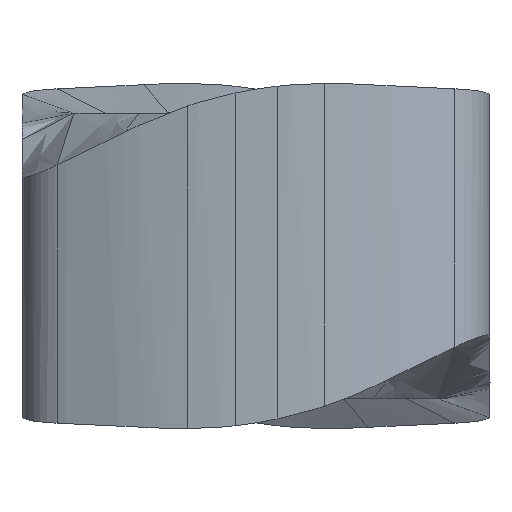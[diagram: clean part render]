
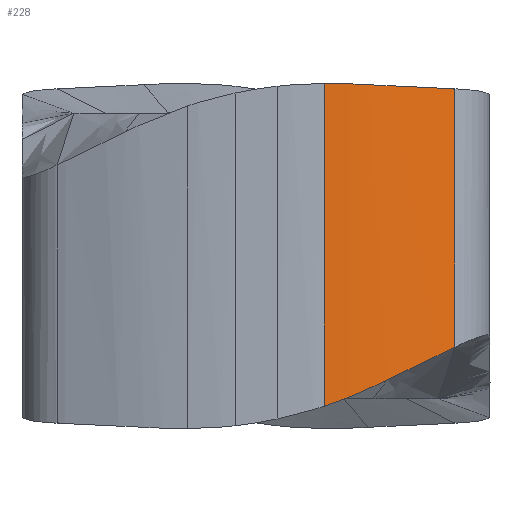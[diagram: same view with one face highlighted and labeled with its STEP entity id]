
A CAD part, left-side view. The second image highlights one B-rep face of the part: STEP entity #228.
In plain terms, the highlighted cylindrical face has radius 6.5 mm (diameter 13 mm), a partial arc.
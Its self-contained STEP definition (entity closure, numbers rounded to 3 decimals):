
#161=CYLINDRICAL_SURFACE('',#1599,6.5);
#180=LINE('',#2883,#196);
#181=LINE('',#2893,#197);
#196=VECTOR('',#1673,1.);
#197=VECTOR('',#1676,1.);
#228=ADVANCED_FACE('',(#326),#161,.T.);
#326=FACE_OUTER_BOUND('',#378,.T.);
#378=EDGE_LOOP('',(#608,#609,#610,#611,#612,#613,#614,#615,#616,#617,#618,
#619,#620,#621,#622,#623));
#608=ORIENTED_EDGE('',*,*,#1251,.F.);
#609=ORIENTED_EDGE('',*,*,#1252,.T.);
#610=ORIENTED_EDGE('',*,*,#1253,.F.);
#611=ORIENTED_EDGE('',*,*,#1254,.F.);
#612=ORIENTED_EDGE('',*,*,#1255,.F.);
#613=ORIENTED_EDGE('',*,*,#1256,.F.);
#614=ORIENTED_EDGE('',*,*,#1257,.F.);
#615=ORIENTED_EDGE('',*,*,#1258,.F.);
#616=ORIENTED_EDGE('',*,*,#1259,.F.);
#617=ORIENTED_EDGE('',*,*,#1260,.F.);
#618=ORIENTED_EDGE('',*,*,#1250,.T.);
#619=ORIENTED_EDGE('',*,*,#1261,.F.);
#620=ORIENTED_EDGE('',*,*,#1262,.F.);
#621=ORIENTED_EDGE('',*,*,#1263,.F.);
#622=ORIENTED_EDGE('',*,*,#1264,.F.);
#623=ORIENTED_EDGE('',*,*,#1265,.F.);
#967=VERTEX_POINT('',#2245);
#1043=VERTEX_POINT('',#2882);
#1044=VERTEX_POINT('',#2891);
#1045=VERTEX_POINT('',#2892);
#1046=VERTEX_POINT('',#2894);
#1047=VERTEX_POINT('',#2901);
#1048=VERTEX_POINT('',#2906);
#1049=VERTEX_POINT('',#2912);
#1050=VERTEX_POINT('',#2917);
#1051=VERTEX_POINT('',#2924);
#1052=VERTEX_POINT('',#2931);
#1053=VERTEX_POINT('',#2937);
#1054=VERTEX_POINT('',#2946);
#1055=VERTEX_POINT('',#2952);
#1056=VERTEX_POINT('',#2957);
#1057=VERTEX_POINT('',#2962);
#1250=EDGE_CURVE('',#967,#1043,#180,.T.);
#1251=EDGE_CURVE('',#1044,#1045,#1482,.T.);
#1252=EDGE_CURVE('',#1044,#1046,#181,.T.);
#1253=EDGE_CURVE('',#1047,#1046,#1483,.T.);
#1254=EDGE_CURVE('',#1048,#1047,#1484,.T.);
#1255=EDGE_CURVE('',#1049,#1048,#1485,.T.);
#1256=EDGE_CURVE('',#1050,#1049,#1486,.T.);
#1257=EDGE_CURVE('',#1051,#1050,#1487,.T.);
#1258=EDGE_CURVE('',#1052,#1051,#1488,.T.);
#1259=EDGE_CURVE('',#1053,#1052,#1489,.T.);
#1260=EDGE_CURVE('',#967,#1053,#1490,.T.);
#1261=EDGE_CURVE('',#1054,#1043,#1491,.T.);
#1262=EDGE_CURVE('',#1055,#1054,#1492,.T.);
#1263=EDGE_CURVE('',#1056,#1055,#1493,.T.);
#1264=EDGE_CURVE('',#1057,#1056,#1494,.T.);
#1265=EDGE_CURVE('',#1045,#1057,#1495,.T.);
#1482=B_SPLINE_CURVE_WITH_KNOTS('',3,(#2885,#2886,#2887,#2888,#2889,#2890),
 .UNSPECIFIED.,.F.,.F.,(4,1,1,4),(0.,0.064,0.605,
1.),.UNSPECIFIED.);
#1483=B_SPLINE_CURVE_WITH_KNOTS('',3,(#2895,#2896,#2897,#2898,#2899,#2900),
 .UNSPECIFIED.,.F.,.F.,(4,1,1,4),(0.,0.374,0.985,
1.),.UNSPECIFIED.);
#1484=B_SPLINE_CURVE_WITH_KNOTS('',3,(#2902,#2903,#2904,#2905),
 .UNSPECIFIED.,.F.,.F.,(4,4),(0.,1.),.UNSPECIFIED.);
#1485=B_SPLINE_CURVE_WITH_KNOTS('',3,(#2907,#2908,#2909,#2910,#2911),
 .UNSPECIFIED.,.F.,.F.,(4,1,4),(0.,0.947,1.),.UNSPECIFIED.);
#1486=B_SPLINE_CURVE_WITH_KNOTS('',3,(#2913,#2914,#2915,#2916),
 .UNSPECIFIED.,.F.,.F.,(4,4),(0.,1.),.UNSPECIFIED.);
#1487=B_SPLINE_CURVE_WITH_KNOTS('',3,(#2918,#2919,#2920,#2921,#2922,#2923),
 .UNSPECIFIED.,.F.,.F.,(4,1,1,4),(0.,0.079,0.539,
1.),.UNSPECIFIED.);
#1488=B_SPLINE_CURVE_WITH_KNOTS('',3,(#2925,#2926,#2927,#2928,#2929,#2930),
 .UNSPECIFIED.,.F.,.F.,(4,1,1,4),(0.,0.499,0.773,
1.),.UNSPECIFIED.);
#1489=B_SPLINE_CURVE_WITH_KNOTS('',3,(#2932,#2933,#2934,#2935,#2936),
 .UNSPECIFIED.,.F.,.F.,(4,1,4),(0.,0.356,1.),.UNSPECIFIED.);
#1490=B_SPLINE_CURVE_WITH_KNOTS('',3,(#2938,#2939,#2940,#2941),
 .UNSPECIFIED.,.F.,.F.,(4,4),(0.,1.),.UNSPECIFIED.);
#1491=B_SPLINE_CURVE_WITH_KNOTS('',3,(#2942,#2943,#2944,#2945),
 .UNSPECIFIED.,.F.,.F.,(4,4),(0.,1.),.UNSPECIFIED.);
#1492=B_SPLINE_CURVE_WITH_KNOTS('',3,(#2947,#2948,#2949,#2950,#2951),
 .UNSPECIFIED.,.F.,.F.,(4,1,4),(0.,0.312,1.),.UNSPECIFIED.);
#1493=B_SPLINE_CURVE_WITH_KNOTS('',3,(#2953,#2954,#2955,#2956),
 .UNSPECIFIED.,.F.,.F.,(4,4),(0.,1.),.UNSPECIFIED.);
#1494=B_SPLINE_CURVE_WITH_KNOTS('',3,(#2958,#2959,#2960,#2961),
 .UNSPECIFIED.,.F.,.F.,(4,4),(0.,1.),.UNSPECIFIED.);
#1495=B_SPLINE_CURVE_WITH_KNOTS('',3,(#2963,#2964,#2965,#2966),
 .UNSPECIFIED.,.F.,.F.,(4,4),(0.,1.),.UNSPECIFIED.);
#1599=AXIS2_PLACEMENT_3D('',#2967,#1677,#1678);
#1673=DIRECTION('',(0.,0.,1.));
#1676=DIRECTION('',(0.,0.,-1.));
#1677=DIRECTION('',(0.,0.,-1.));
#1678=DIRECTION('',(-0.996,0.085,0.));
#2245=CARTESIAN_POINT('',(-4.173,-2.674,-1.224));
#2882=CARTESIAN_POINT('',(-4.173,-2.674,2.247));
#2883=CARTESIAN_POINT('',(-4.173,-2.674,8.));
#2885=CARTESIAN_POINT('',(-4.684,-0.917,2.32));
#2886=CARTESIAN_POINT('',(-4.683,-0.925,2.32));
#2887=CARTESIAN_POINT('',(-4.673,-0.996,2.32));
#2888=CARTESIAN_POINT('',(-4.654,-1.114,2.319));
#2889=CARTESIAN_POINT('',(-4.633,-1.223,2.315));
#2890=CARTESIAN_POINT('',(-4.624,-1.269,2.313));
#2891=CARTESIAN_POINT('',(-4.684,-0.917,2.32));
#2892=CARTESIAN_POINT('',(-4.624,-1.269,2.313));
#2893=CARTESIAN_POINT('',(-4.684,-0.917,8.));
#2894=CARTESIAN_POINT('',(-4.684,-0.917,-2.019));
#2895=CARTESIAN_POINT('',(-4.624,-1.27,-1.889));
#2896=CARTESIAN_POINT('',(-4.632,-1.227,-1.907));
#2897=CARTESIAN_POINT('',(-4.654,-1.112,-1.951));
#2898=CARTESIAN_POINT('',(-4.673,-0.994,-1.993));
#2899=CARTESIAN_POINT('',(-4.684,-0.919,-2.018));
#2900=CARTESIAN_POINT('',(-4.684,-0.917,-2.019));
#2901=CARTESIAN_POINT('',(-4.624,-1.27,-1.889));
#2902=CARTESIAN_POINT('',(-4.61,-1.339,-1.86));
#2903=CARTESIAN_POINT('',(-4.614,-1.316,-1.87));
#2904=CARTESIAN_POINT('',(-4.619,-1.293,-1.88));
#2905=CARTESIAN_POINT('',(-4.624,-1.27,-1.889));
#2906=CARTESIAN_POINT('',(-4.61,-1.339,-1.86));
#2907=CARTESIAN_POINT('',(-4.556,-1.572,-1.755));
#2908=CARTESIAN_POINT('',(-4.574,-1.499,-1.789));
#2909=CARTESIAN_POINT('',(-4.592,-1.422,-1.825));
#2910=CARTESIAN_POINT('',(-4.609,-1.343,-1.858));
#2911=CARTESIAN_POINT('',(-4.61,-1.339,-1.86));
#2912=CARTESIAN_POINT('',(-4.556,-1.572,-1.755));
#2913=CARTESIAN_POINT('',(-4.505,-1.763,-1.664));
#2914=CARTESIAN_POINT('',(-4.523,-1.7,-1.695));
#2915=CARTESIAN_POINT('',(-4.54,-1.636,-1.725));
#2916=CARTESIAN_POINT('',(-4.556,-1.572,-1.755));
#2917=CARTESIAN_POINT('',(-4.505,-1.763,-1.664));
#2918=CARTESIAN_POINT('',(-4.429,-2.015,-1.544));
#2919=CARTESIAN_POINT('',(-4.431,-2.008,-1.547));
#2920=CARTESIAN_POINT('',(-4.446,-1.963,-1.568));
#2921=CARTESIAN_POINT('',(-4.472,-1.879,-1.609));
#2922=CARTESIAN_POINT('',(-4.494,-1.802,-1.646));
#2923=CARTESIAN_POINT('',(-4.505,-1.763,-1.664));
#2924=CARTESIAN_POINT('',(-4.429,-2.015,-1.544));
#2925=CARTESIAN_POINT('',(-4.277,-2.431,-1.342));
#2926=CARTESIAN_POINT('',(-4.305,-2.362,-1.376));
#2927=CARTESIAN_POINT('',(-4.346,-2.256,-1.427));
#2928=CARTESIAN_POINT('',(-4.395,-2.117,-1.495));
#2929=CARTESIAN_POINT('',(-4.419,-2.047,-1.528));
#2930=CARTESIAN_POINT('',(-4.429,-2.015,-1.544));
#2931=CARTESIAN_POINT('',(-4.277,-2.431,-1.342));
#2932=CARTESIAN_POINT('',(-4.265,-2.462,-1.327));
#2933=CARTESIAN_POINT('',(-4.266,-2.458,-1.329));
#2934=CARTESIAN_POINT('',(-4.271,-2.448,-1.334));
#2935=CARTESIAN_POINT('',(-4.275,-2.437,-1.339));
#2936=CARTESIAN_POINT('',(-4.277,-2.431,-1.342));
#2937=CARTESIAN_POINT('',(-4.265,-2.462,-1.327));
#2938=CARTESIAN_POINT('',(-4.173,-2.674,-1.224));
#2939=CARTESIAN_POINT('',(-4.205,-2.604,-1.258));
#2940=CARTESIAN_POINT('',(-4.236,-2.533,-1.293));
#2941=CARTESIAN_POINT('',(-4.265,-2.462,-1.327));
#2942=CARTESIAN_POINT('',(-4.183,-2.653,2.248));
#2943=CARTESIAN_POINT('',(-4.18,-2.66,2.247));
#2944=CARTESIAN_POINT('',(-4.177,-2.667,2.247));
#2945=CARTESIAN_POINT('',(-4.173,-2.674,2.247));
#2946=CARTESIAN_POINT('',(-4.183,-2.653,2.248));
#2947=CARTESIAN_POINT('',(-4.482,-1.845,2.286));
#2948=CARTESIAN_POINT('',(-4.456,-1.931,2.282));
#2949=CARTESIAN_POINT('',(-4.369,-2.205,2.269));
#2950=CARTESIAN_POINT('',(-4.264,-2.472,2.256));
#2951=CARTESIAN_POINT('',(-4.183,-2.653,2.248));
#2952=CARTESIAN_POINT('',(-4.482,-1.845,2.286));
#2953=CARTESIAN_POINT('',(-4.571,-1.51,2.302));
#2954=CARTESIAN_POINT('',(-4.544,-1.622,2.297));
#2955=CARTESIAN_POINT('',(-4.515,-1.734,2.291));
#2956=CARTESIAN_POINT('',(-4.482,-1.845,2.286));
#2957=CARTESIAN_POINT('',(-4.571,-1.51,2.302));
#2958=CARTESIAN_POINT('',(-4.608,-1.348,2.31));
#2959=CARTESIAN_POINT('',(-4.596,-1.402,2.307));
#2960=CARTESIAN_POINT('',(-4.584,-1.456,2.304));
#2961=CARTESIAN_POINT('',(-4.571,-1.51,2.302));
#2962=CARTESIAN_POINT('',(-4.608,-1.348,2.31));
#2963=CARTESIAN_POINT('',(-4.624,-1.269,2.313));
#2964=CARTESIAN_POINT('',(-4.619,-1.296,2.312));
#2965=CARTESIAN_POINT('',(-4.613,-1.322,2.311));
#2966=CARTESIAN_POINT('',(-4.608,-1.348,2.31));
#2967=CARTESIAN_POINT('',(1.751,0.,8.));
